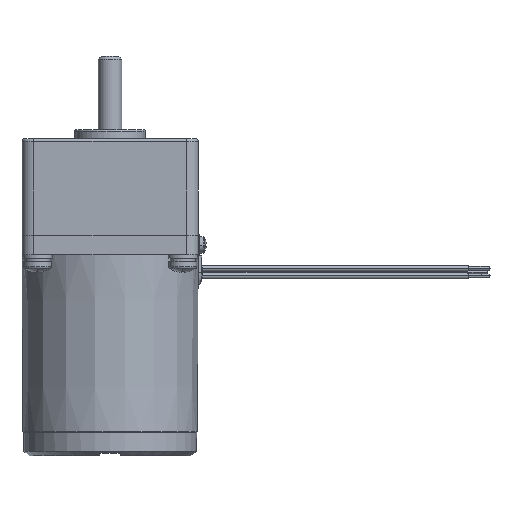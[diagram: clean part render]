
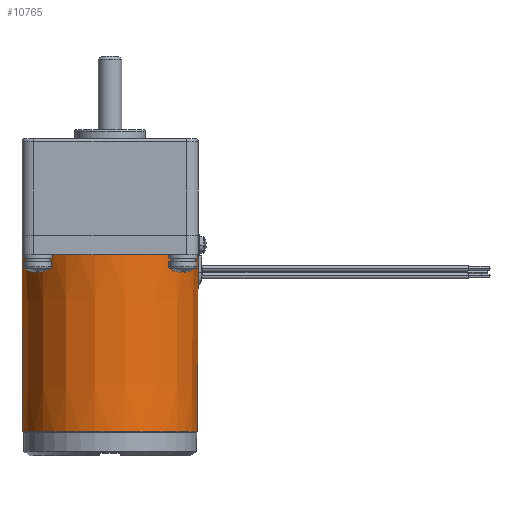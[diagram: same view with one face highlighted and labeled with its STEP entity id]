
A CAD part, front view. The second image highlights one B-rep face of the part: STEP entity #10765.
In plain terms, the highlighted conical face has half-angle 0.25 degrees and reference radius 30 mm.
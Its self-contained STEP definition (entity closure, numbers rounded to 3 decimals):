
#1895 = VERTEX_POINT ( 'NONE', #7444 ) ;
#1896 = VERTEX_POINT ( 'NONE', #7443 ) ;
#7443 = CARTESIAN_POINT ( 'NONE',  ( 29.737, 0., -66.85 ) ) ;
#7444 = CARTESIAN_POINT ( 'NONE',  ( -29.737, 0., -66.85 ) ) ;
#8408 = DIRECTION ( 'NONE',  ( 0., 0., 1. ) ) ;
#8409 = CARTESIAN_POINT ( 'NONE',  ( 0., 0., -6.5 ) ) ;
#8410 = AXIS2_PLACEMENT_3D ( 'NONE', #8409, #8408, #8467 ) ;
#8412 = CONICAL_SURFACE ( 'NONE', #8410, 30., 0.004 ) ;
#8427 = FACE_OUTER_BOUND ( 'NONE', #10766, .T. ) ;
#8443 = CARTESIAN_POINT ( 'NONE',  ( 0., -30., -6.5 ) ) ;
#8444 = DIRECTION ( 'NONE',  ( -1., 0., 0. ) ) ;
#8445 = DIRECTION ( 'NONE',  ( 0., 0., -1. ) ) ;
#8446 = CARTESIAN_POINT ( 'NONE',  ( 0., 0., -6.5 ) ) ;
#8447 = AXIS2_PLACEMENT_3D ( 'NONE', #8446, #8445, #8444 ) ;
#8448 = CIRCLE ( 'NONE', #8447, 30. ) ;
#8454 = DIRECTION ( 'NONE',  ( 0.004, 0., 1. ) ) ;
#8455 = VECTOR ( 'NONE', #8454, 1000. ) ;
#8456 = CARTESIAN_POINT ( 'NONE',  ( 30., 0., -6.5 ) ) ;
#8457 = LINE ( 'NONE', #8456, #8455 ) ;
#8459 = CARTESIAN_POINT ( 'NONE',  ( 30., 0., -6.5 ) ) ;
#8462 = DIRECTION ( 'NONE',  ( 1., 0., 0. ) ) ;
#8463 = DIRECTION ( 'NONE',  ( 0., 0., 1. ) ) ;
#8464 = CARTESIAN_POINT ( 'NONE',  ( 0., 0., -66.85 ) ) ;
#8465 = AXIS2_PLACEMENT_3D ( 'NONE', #8464, #8463, #8462 ) ;
#8466 = CIRCLE ( 'NONE', #8465, 29.737 ) ;
#8467 = DIRECTION ( 'NONE',  ( -1., 0., 0. ) ) ;
#8468 = LINE ( 'NONE', #10960, #8531 ) ;
#8487 = CARTESIAN_POINT ( 'NONE',  ( -30., 0., -6.5 ) ) ;
#8490 = DIRECTION ( 'NONE',  ( -1., 0., 0. ) ) ;
#8491 = DIRECTION ( 'NONE',  ( 0., 0., -1. ) ) ;
#8492 = AXIS2_PLACEMENT_3D ( 'NONE', #8499, #8491, #8490 ) ;
#8493 = CIRCLE ( 'NONE', #8492, 30. ) ;
#8499 = CARTESIAN_POINT ( 'NONE',  ( 0., 0., -6.5 ) ) ;
#8530 = DIRECTION ( 'NONE',  ( -0.004, 0., 1. ) ) ;
#8531 = VECTOR ( 'NONE', #8530, 1000. ) ;
#10751 = ORIENTED_EDGE ( 'NONE', *, *, #10791, .T. ) ;
#10763 = ORIENTED_EDGE ( 'NONE', *, *, #10769, .T. ) ;
#10764 = ORIENTED_EDGE ( 'NONE', *, *, #10805, .F. ) ;
#10765 = ADVANCED_FACE ( 'NONE', ( #8427 ), #8412, .T. ) ;
#10766 = EDGE_LOOP ( 'NONE', ( #10763, #10770, #10767, #10751, #10764 ) ) ;
#10767 = ORIENTED_EDGE ( 'NONE', *, *, #10780, .T. ) ;
#10769 = EDGE_CURVE ( 'NONE', #1895, #1896, #8466, .T. ) ;
#10770 = ORIENTED_EDGE ( 'NONE', *, *, #10776, .T. ) ;
#10774 = VERTEX_POINT ( 'NONE', #8459 ) ;
#10776 = EDGE_CURVE ( 'NONE', #1896, #10774, #8457, .T. ) ;
#10780 = EDGE_CURVE ( 'NONE', #10774, #10781, #8448, .T. ) ;
#10781 = VERTEX_POINT ( 'NONE', #8443 ) ;
#10791 = EDGE_CURVE ( 'NONE', #10781, #10795, #8493, .T. ) ;
#10795 = VERTEX_POINT ( 'NONE', #8487 ) ;
#10805 = EDGE_CURVE ( 'NONE', #1895, #10795, #8468, .T. ) ;
#10960 = CARTESIAN_POINT ( 'NONE',  ( -30., 0., -6.5 ) ) ;
